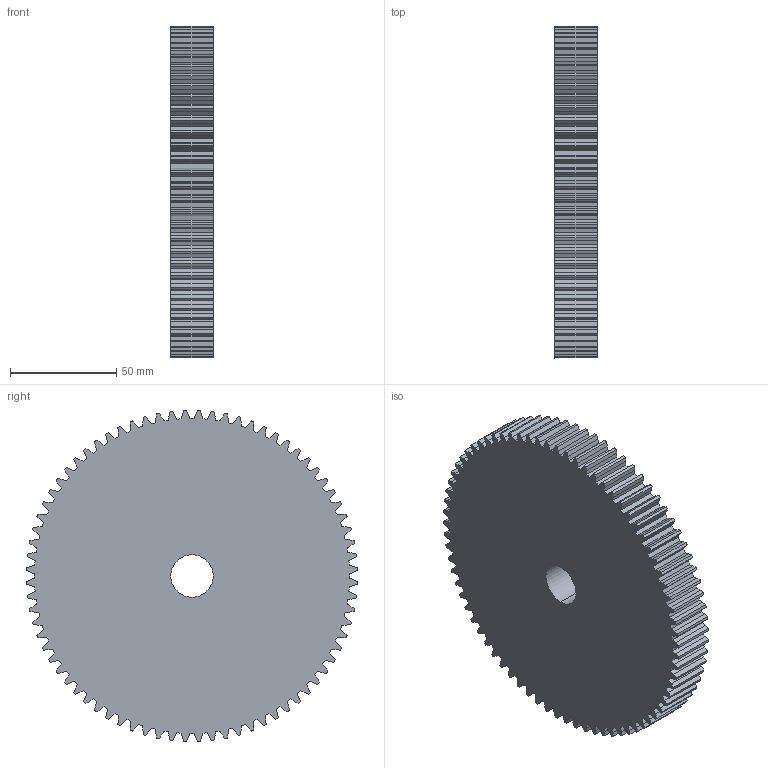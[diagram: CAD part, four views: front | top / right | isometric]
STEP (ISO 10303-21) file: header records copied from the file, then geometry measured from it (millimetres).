
FILE_DESCRIPTION (( 'STEP AP203' ), '1' );
FILE_NAME ('CM 28076.STEP', '2013-09-23T09:24:11', ( '' ), ( '' ), 'SwSTEP 2.0', 'SolidWorks 2010', '' );
FILE_SCHEMA (( 'CONFIG_CONTROL_DESIGN' ));
Length unit declared in the file: millimetre
Products named in the file (1): CM 28076
Bounding box: 20 x 155.92 x 155.92 mm (x, y, z)
Volume: 354511.2 mm3; surface area: 54765.3 mm2
Topology: 1 solids, 1 shells, 460 faces, 1374 edges, 916 vertices
Faces by surface type: plane 306, cylinder 154
Entity records: 16135 total; most frequent: CARTESIAN_POINT 4995, ORIENTED_EDGE 2748, DIRECTION 1716, EDGE_CURVE 1374, VERTEX_POINT 916, B_SPLINE_CURVE_WITH_KNOTS 748, AXIS2_PLACEMENT_3D 629, EDGE_LOOP 462
